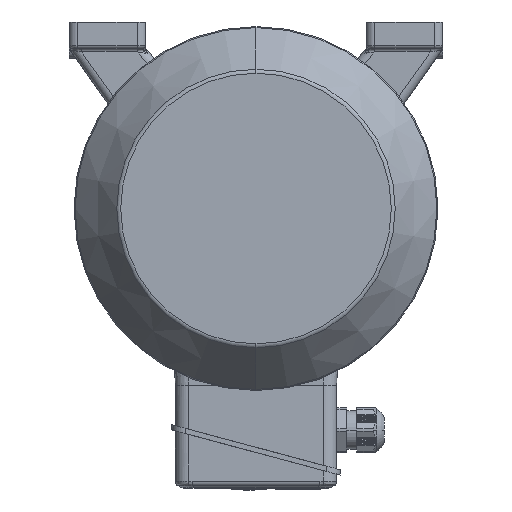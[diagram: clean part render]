
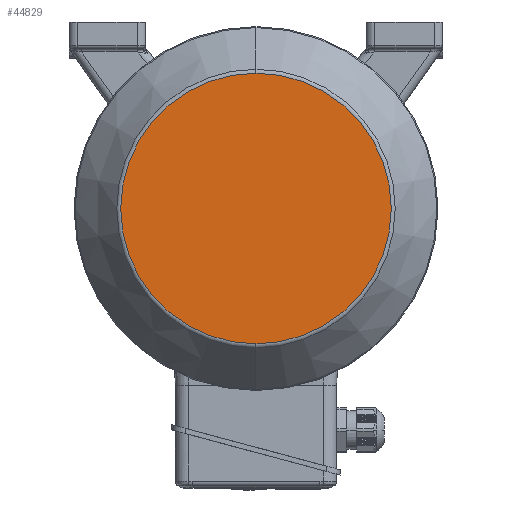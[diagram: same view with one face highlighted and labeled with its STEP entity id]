
A CAD part, left-side view. The second image highlights one B-rep face of the part: STEP entity #44829.
In plain terms, the highlighted planar face has unit normal (-1, 0, 0).
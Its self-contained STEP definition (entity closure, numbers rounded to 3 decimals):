
#451 = FACE_OUTER_BOUND ( 'NONE', #19168, .T. ) ;
#2282 = DIRECTION ( 'NONE',  ( -1., 0., 0. ) ) ;
#2433 = DIRECTION ( 'NONE',  ( 0., 1., 0. ) ) ;
#5411 = CIRCLE ( 'NONE', #18579, 81.227 ) ;
#6238 = AXIS2_PLACEMENT_3D ( 'NONE', #45941, #31368, #24360 ) ;
#16825 = CARTESIAN_POINT ( 'NONE',  ( -220., 0., 81.227 ) ) ;
#17703 = VERTEX_POINT ( 'NONE', #36143 ) ;
#18579 = AXIS2_PLACEMENT_3D ( 'NONE', #22756, #40374, #18668 ) ;
#18608 = EDGE_CURVE ( 'NONE', #17703, #34106, #5411, .T. ) ;
#18668 = DIRECTION ( 'NONE',  ( 0., 0., -1. ) ) ;
#19168 = EDGE_LOOP ( 'NONE', ( #41402, #36901 ) ) ;
#22756 = CARTESIAN_POINT ( 'NONE',  ( -220., 0., 0. ) ) ;
#24360 = DIRECTION ( 'NONE',  ( 0., 0., -1. ) ) ;
#31368 = DIRECTION ( 'NONE',  ( 1., 0., 0. ) ) ;
#31616 = PLANE ( 'NONE',  #37936 ) ;
#32964 = EDGE_CURVE ( 'NONE', #34106, #17703, #44510, .T. ) ;
#34106 = VERTEX_POINT ( 'NONE', #16825 ) ;
#36143 = CARTESIAN_POINT ( 'NONE',  ( -220., 0., -81.227 ) ) ;
#36901 = ORIENTED_EDGE ( 'NONE', *, *, #32964, .F. ) ;
#37936 = AXIS2_PLACEMENT_3D ( 'NONE', #42533, #2282, #2433 ) ;
#40374 = DIRECTION ( 'NONE',  ( 1., 0., 0. ) ) ;
#41402 = ORIENTED_EDGE ( 'NONE', *, *, #18608, .F. ) ;
#42533 = CARTESIAN_POINT ( 'NONE',  ( -220., 0., -81.227 ) ) ;
#44510 = CIRCLE ( 'NONE', #6238, 81.227 ) ;
#44829 = ADVANCED_FACE ( 'NONE', ( #451 ), #31616, .T. ) ;
#45941 = CARTESIAN_POINT ( 'NONE',  ( -220., 0., 0. ) ) ;
